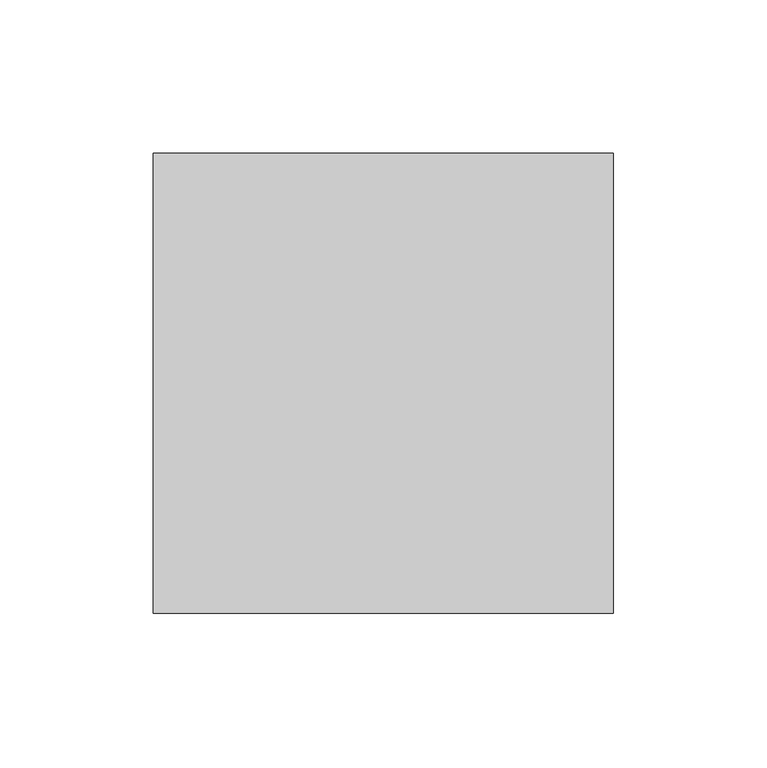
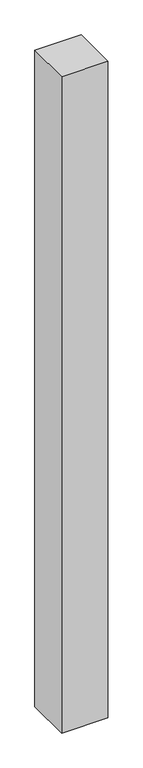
"""IFC4 building model written with IfcOpenShell, lengths in millimetres: proxy geometry, Renson_Amani_Extra_Column : Renson_Amani_Extra_Column."""

from ifc_helpers import new_model, si_unit, origin, origin_with_axes, place, context, project, spatial, polyline, outline, extrude, source, transform, mapped, element, save


def generic_models_01261823(model_context):
    return source(origin(), model_context, "Body", "SweptSolid", [
        extrude(outline(polyline([(75.0, -75.0), (-75.0, -75.0), (-75.0, 75.0), (75.0, 75.0), (75.0, -75.0)])), origin_with_axes(), (0.0, 0.0, 1.0), 2250.0),
    ])


if __name__ == "__main__":
    model = new_model("IFC4")
    model_context = context("Model", 3, world=origin())
    ifc_project = project(units=[si_unit("LENGTHUNIT", "METRE", prefix="MILLI")], contexts=[model_context])
    site = spatial("IfcSite", under=ifc_project)
    building = spatial("IfcBuilding", under=site)
    placement = place(None, origin())
    generic_models_shape = generic_models_01261823(model_context)
    element("IfcBuildingElementProxy", 1, Name="Renson_Amani_Extra_Column : Renson_Amani_Extra_Column", ObjectType="Renson_Amani_Extra_Column : Renson_Amani_Extra_Column", at=placement, inside=building, context=model_context, shape_type="MappedRepresentation", body=[
        mapped(generic_models_shape, transform((0.0, 0.0, 0.0), x_axis=(1.0, 0.0, 0.0), y_axis=(0.0, 1.0, 0.0), z_axis=(0.0, 0.0, 1.0))),
    ])
    save(model, "model.ifc")
